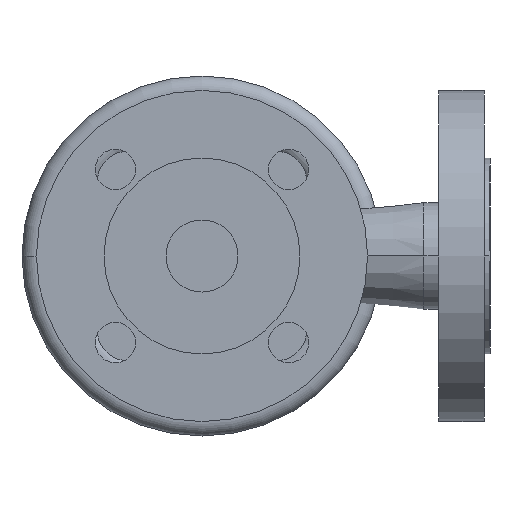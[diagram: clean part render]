
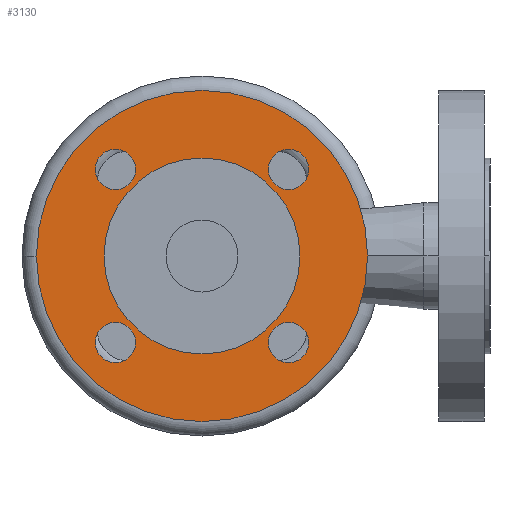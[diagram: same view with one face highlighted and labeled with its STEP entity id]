
A CAD part, front view. The second image highlights one B-rep face of the part: STEP entity #3130.
In plain terms, the highlighted planar face has unit normal (0, -1, 0).
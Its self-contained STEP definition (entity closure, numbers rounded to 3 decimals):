
#610=CARTESIAN_POINT('',(-34.,2.,0.));
#620=VERTEX_POINT('',#610);
#780=CARTESIAN_POINT('',(34.,2.,0.));
#790=VERTEX_POINT('',#780);
#820=CARTESIAN_POINT('',(0.,2.,0.));
#830=DIRECTION('',(0.,-1.,0.));
#840=DIRECTION('',(-1.,0.,0.));
#850=AXIS2_PLACEMENT_3D('',#820,#830,#840);
#860=CIRCLE('',#850,34.);
#870=EDGE_CURVE('',#620,#790,#860,.T.);
#2280=CARTESIAN_POINT('',(0.,2.,0.));
#2290=DIRECTION('',(0.,1.,0.));
#2300=DIRECTION('',(0.,0.,1.));
#2310=AXIS2_PLACEMENT_3D('',#2280,#2290,#2300);
#2320=PLANE('',#2310);
#2330=CARTESIAN_POINT('',(-30.052,2.,30.052));
#2340=DIRECTION('',(0.,1.,0.));
#2350=DIRECTION('',(1.,0.,0.));
#2360=AXIS2_PLACEMENT_3D('',#2330,#2340,#2350);
#2370=CIRCLE('',#2360,7.);
#2380=CARTESIAN_POINT('',(-37.052,2.,30.052));
#2390=VERTEX_POINT('',#2380);
#2400=CARTESIAN_POINT('',(-23.052,2.,30.052));
#2410=VERTEX_POINT('',#2400);
#2420=EDGE_CURVE('',#2390,#2410,#2370,.T.);
#2430=ORIENTED_EDGE('',*,*,#2420,.T.);
#2440=EDGE_CURVE('',#2410,#2390,#2370,.T.);
#2450=ORIENTED_EDGE('',*,*,#2440,.T.);
#2460=EDGE_LOOP('',(#2450,#2430));
#2470=FACE_BOUND('',#2460,.T.);
#2480=CARTESIAN_POINT('',(-30.052,2.,-30.052));
#2490=DIRECTION('',(0.,1.,0.));
#2500=DIRECTION('',(1.,0.,0.));
#2510=AXIS2_PLACEMENT_3D('',#2480,#2490,#2500);
#2520=CIRCLE('',#2510,7.);
#2530=CARTESIAN_POINT('',(-37.052,2.,-30.052));
#2540=VERTEX_POINT('',#2530);
#2550=CARTESIAN_POINT('',(-23.052,2.,-30.052));
#2560=VERTEX_POINT('',#2550);
#2570=EDGE_CURVE('',#2540,#2560,#2520,.T.);
#2580=ORIENTED_EDGE('',*,*,#2570,.T.);
#2590=EDGE_CURVE('',#2560,#2540,#2520,.T.);
#2600=ORIENTED_EDGE('',*,*,#2590,.T.);
#2610=EDGE_LOOP('',(#2600,#2580));
#2620=FACE_BOUND('',#2610,.T.);
#2630=CARTESIAN_POINT('',(30.052,2.,30.052));
#2640=DIRECTION('',(0.,1.,0.));
#2650=DIRECTION('',(1.,0.,0.));
#2660=AXIS2_PLACEMENT_3D('',#2630,#2640,#2650);
#2670=CIRCLE('',#2660,7.);
#2680=CARTESIAN_POINT('',(23.052,2.,30.052));
#2690=VERTEX_POINT('',#2680);
#2700=CARTESIAN_POINT('',(37.052,2.,30.052));
#2710=VERTEX_POINT('',#2700);
#2720=EDGE_CURVE('',#2690,#2710,#2670,.T.);
#2730=ORIENTED_EDGE('',*,*,#2720,.T.);
#2740=EDGE_CURVE('',#2710,#2690,#2670,.T.);
#2750=ORIENTED_EDGE('',*,*,#2740,.T.);
#2760=EDGE_LOOP('',(#2750,#2730));
#2770=FACE_BOUND('',#2760,.T.);
#2780=CARTESIAN_POINT('',(30.052,2.,-30.052));
#2790=DIRECTION('',(0.,1.,0.));
#2800=DIRECTION('',(1.,0.,0.));
#2810=AXIS2_PLACEMENT_3D('',#2780,#2790,#2800);
#2820=CIRCLE('',#2810,7.);
#2830=CARTESIAN_POINT('',(23.052,2.,-30.052));
#2840=VERTEX_POINT('',#2830);
#2850=CARTESIAN_POINT('',(37.052,2.,-30.052));
#2860=VERTEX_POINT('',#2850);
#2870=EDGE_CURVE('',#2840,#2860,#2820,.T.);
#2880=ORIENTED_EDGE('',*,*,#2870,.T.);
#2890=EDGE_CURVE('',#2860,#2840,#2820,.T.);
#2900=ORIENTED_EDGE('',*,*,#2890,.T.);
#2910=EDGE_LOOP('',(#2900,#2880));
#2920=FACE_BOUND('',#2910,.T.);
#2930=CARTESIAN_POINT('',(0.,2.,0.));
#2940=DIRECTION('',(0.,1.,0.));
#2950=DIRECTION('',(1.,0.,0.));
#2960=AXIS2_PLACEMENT_3D('',#2930,#2940,#2950);
#2970=CIRCLE('',#2960,57.5);
#2980=CARTESIAN_POINT('',(57.5,2.,0.));
#2990=VERTEX_POINT('',#2980);
#3000=CARTESIAN_POINT('',(-57.5,2.,0.));
#3010=VERTEX_POINT('',#3000);
#3020=EDGE_CURVE('',#2990,#3010,#2970,.T.);
#3030=ORIENTED_EDGE('',*,*,#3020,.F.);
#3040=EDGE_CURVE('',#3010,#2990,#2970,.T.);
#3050=ORIENTED_EDGE('',*,*,#3040,.F.);
#3060=EDGE_LOOP('',(#3050,#3030));
#3070=FACE_OUTER_BOUND('',#3060,.T.);
#3080=EDGE_CURVE('',#790,#620,#860,.T.);
#3090=ORIENTED_EDGE('',*,*,#3080,.F.);
#3100=ORIENTED_EDGE('',*,*,#870,.F.);
#3110=EDGE_LOOP('',(#3100,#3090));
#3120=FACE_BOUND('',#3110,.T.);
#3130=ADVANCED_FACE('',(#2470,#2620,#2770,#2920,#3070,#3120),#2320,.F.);
